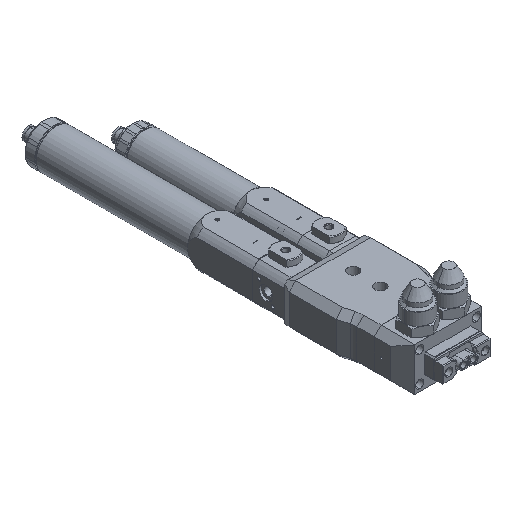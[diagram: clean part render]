
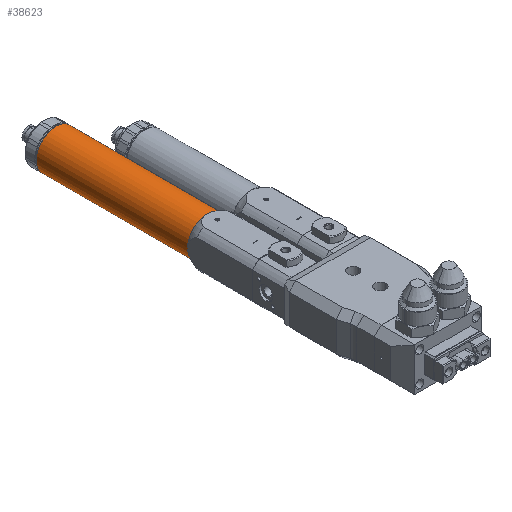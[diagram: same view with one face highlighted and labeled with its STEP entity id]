
A CAD part, isometric view. The second image highlights one B-rep face of the part: STEP entity #38623.
In plain terms, the highlighted cylindrical face has radius 14.5 mm (diameter 29 mm), a full revolution.
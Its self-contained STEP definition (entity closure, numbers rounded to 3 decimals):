
#2691 = VERTEX_POINT ( 'NONE', #32200 ) ;
#3154 = AXIS2_PLACEMENT_3D ( 'NONE', #3725, #16631, #33131 ) ;
#3725 = CARTESIAN_POINT ( 'NONE',  ( -108.037, 36.796, 998.603 ) ) ;
#5498 = CARTESIAN_POINT ( 'NONE',  ( -108.037, 36.796, 998.603 ) ) ;
#7678 = CARTESIAN_POINT ( 'NONE',  ( -93.537, 36.796, 998.603 ) ) ;
#8273 = DIRECTION ( 'NONE',  ( 0., 0., -1. ) ) ;
#8412 = CARTESIAN_POINT ( 'NONE',  ( -122.537, 36.796, 998.603 ) ) ;
#10307 = DIRECTION ( 'NONE',  ( 0., 0., -1. ) ) ;
#10464 = CIRCLE ( 'NONE', #50975, 14.5 ) ;
#10789 = EDGE_CURVE ( 'NONE', #2691, #41013, #42701, .T. ) ;
#10990 = CARTESIAN_POINT ( 'NONE',  ( -108.037, 148.596, 998.603 ) ) ;
#11410 = CARTESIAN_POINT ( 'NONE',  ( -108.037, 148.596, 998.603 ) ) ;
#11843 = ORIENTED_EDGE ( 'NONE', *, *, #13485, .T. ) ;
#13485 = EDGE_CURVE ( 'NONE', #13508, #42596, #10464, .T. ) ;
#13508 = VERTEX_POINT ( 'NONE', #23578 ) ;
#13817 = AXIS2_PLACEMENT_3D ( 'NONE', #10990, #39641, #27485 ) ;
#14097 = ORIENTED_EDGE ( 'NONE', *, *, #38242, .T. ) ;
#14244 = VERTEX_POINT ( 'NONE', #16848 ) ;
#14965 = DIRECTION ( 'NONE',  ( 0., 0., -1. ) ) ;
#15765 = DIRECTION ( 'NONE',  ( 0., -1., 0. ) ) ;
#16238 = ORIENTED_EDGE ( 'NONE', *, *, #10789, .T. ) ;
#16295 = FACE_OUTER_BOUND ( 'NONE', #47788, .T. ) ;
#16631 = DIRECTION ( 'NONE',  ( 0., 1., 0. ) ) ;
#16848 = CARTESIAN_POINT ( 'NONE',  ( -108.037, 148.596, 984.103 ) ) ;
#17008 = EDGE_CURVE ( 'NONE', #14244, #52900, #44835, .T. ) ;
#19830 = CARTESIAN_POINT ( 'NONE',  ( -108.037, 32.859, 998.603 ) ) ;
#20422 = DIRECTION ( 'NONE',  ( 0., 1., 0. ) ) ;
#21703 = CIRCLE ( 'NONE', #51015, 14.5 ) ;
#21719 = AXIS2_PLACEMENT_3D ( 'NONE', #5498, #26017, #10307 ) ;
#22165 = AXIS2_PLACEMENT_3D ( 'NONE', #19830, #15765, #28482 ) ;
#22671 = ORIENTED_EDGE ( 'NONE', *, *, #17008, .T. ) ;
#23090 = DIRECTION ( 'NONE',  ( 0., 1., 0. ) ) ;
#23578 = CARTESIAN_POINT ( 'NONE',  ( -108.037, 36.796, 1013.103 ) ) ;
#26017 = DIRECTION ( 'NONE',  ( 0., 1., 0. ) ) ;
#26262 = ORIENTED_EDGE ( 'NONE', *, *, #34713, .T. ) ;
#27357 = DIRECTION ( 'NONE',  ( 0., -1., 0. ) ) ;
#27485 = DIRECTION ( 'NONE',  ( 0., 0., -1. ) ) ;
#27677 = CYLINDRICAL_SURFACE ( 'NONE', #22165, 14.5 ) ;
#27818 = EDGE_LOOP ( 'NONE', ( #34331, #22671 ) ) ;
#28482 = DIRECTION ( 'NONE',  ( 0., 0., -1. ) ) ;
#28755 = EDGE_CURVE ( 'NONE', #52900, #14244, #21703, .T. ) ;
#30470 = CARTESIAN_POINT ( 'NONE',  ( -108.037, 148.596, 1013.103 ) ) ;
#30694 = AXIS2_PLACEMENT_3D ( 'NONE', #47919, #23090, #14965 ) ;
#31992 = FACE_OUTER_BOUND ( 'NONE', #27818, .T. ) ;
#32200 = CARTESIAN_POINT ( 'NONE',  ( -108.037, 36.796, 984.103 ) ) ;
#33131 = DIRECTION ( 'NONE',  ( 0., 0., -1. ) ) ;
#34331 = ORIENTED_EDGE ( 'NONE', *, *, #28755, .T. ) ;
#34713 = EDGE_CURVE ( 'NONE', #42596, #2691, #36410, .T. ) ;
#36410 = CIRCLE ( 'NONE', #21719, 14.5 ) ;
#36918 = CARTESIAN_POINT ( 'NONE',  ( -108.037, 36.796, 998.603 ) ) ;
#38242 = EDGE_CURVE ( 'NONE', #41013, #13508, #52228, .T. ) ;
#38623 = ADVANCED_FACE ( 'NONE', ( #16295, #31992 ), #27677, .T. ) ;
#39641 = DIRECTION ( 'NONE',  ( 0., -1., 0. ) ) ;
#41013 = VERTEX_POINT ( 'NONE', #8412 ) ;
#42596 = VERTEX_POINT ( 'NONE', #7678 ) ;
#42701 = CIRCLE ( 'NONE', #30694, 14.5 ) ;
#43791 = DIRECTION ( 'NONE',  ( 0., 0., -1. ) ) ;
#44835 = CIRCLE ( 'NONE', #13817, 14.5 ) ;
#47788 = EDGE_LOOP ( 'NONE', ( #26262, #16238, #14097, #11843 ) ) ;
#47919 = CARTESIAN_POINT ( 'NONE',  ( -108.037, 36.796, 998.603 ) ) ;
#50975 = AXIS2_PLACEMENT_3D ( 'NONE', #36918, #20422, #8273 ) ;
#51015 = AXIS2_PLACEMENT_3D ( 'NONE', #11410, #27357, #43791 ) ;
#52228 = CIRCLE ( 'NONE', #3154, 14.5 ) ;
#52900 = VERTEX_POINT ( 'NONE', #30470 ) ;
